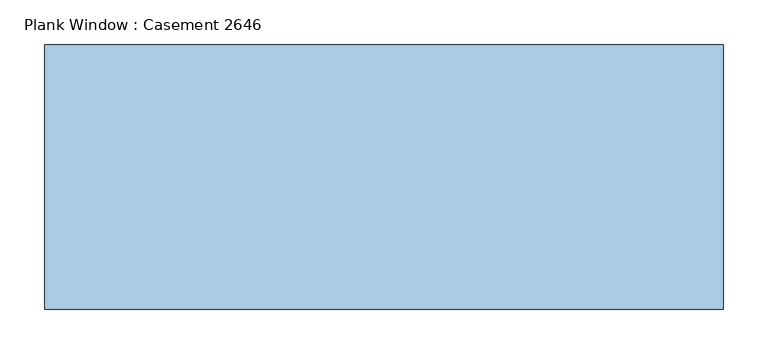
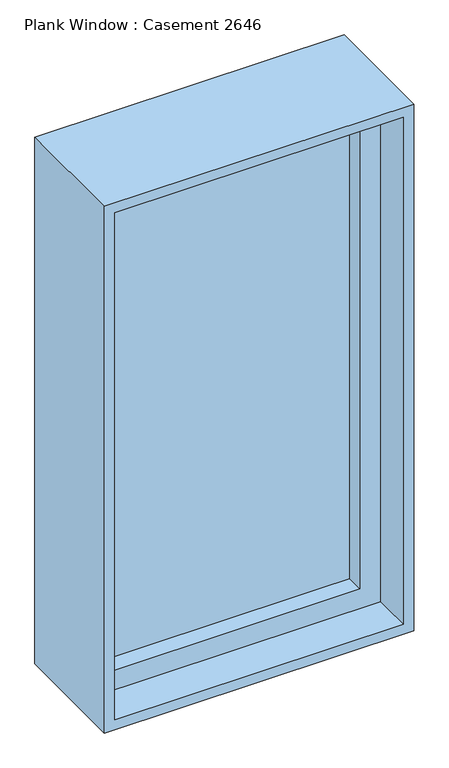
"""IFC4 building model written with IfcOpenShell, lengths in millimetres: window geometry, Plank Window : Casement 2646."""

from ifc_helpers import new_model, si_unit, frame, origin, place, context, project, spatial, polyline, outline, extrude, source, transform, mapped, element, save


def plank_window_casement_2646_fc72efb1(model_context):
    return source(origin(), model_context, "Body", "SweptSolid", [
        extrude(outline(polyline([(304.8, -6.35), (-304.8, -6.35), (-304.8, 6.35), (304.8, 6.35), (304.8, -6.35)])), frame((0.0, 0.0, 990.6), z_axis=(0.0, 0.0, 1.0), x_axis=(1.0, 0.0, 0.0)), (0.0, 0.0, 1.0), 1219.2),
        extrude(outline(polyline([(2260.6, -355.6), (939.8, -355.6), (939.8, 355.6), (2260.6, 355.6), (2260.6, -355.6)]), holes=[polyline([(2209.8, -304.8), (2209.8, 304.8), (990.6, 304.8), (990.6, -304.8), (2209.8, -304.8)])]), frame((0.0, -50.8, 0.0), z_axis=(0.0, 1.0, 0.0), x_axis=(0.0, 0.0, 1.0)), (0.0, 0.0, 1.0), 101.6),
        extrude(outline(polyline([(2286.0, -381.0), (914.4, -381.0), (914.4, 381.0), (2286.0, 381.0), (2286.0, -381.0)]), holes=[polyline([(2260.6, -355.6), (2260.6, 355.6), (939.8, 355.6), (939.8, -355.6), (2260.6, -355.6)])]), frame((0.0, -148.43125, 0.0), z_axis=(0.0, 1.0, 0.0), x_axis=(0.0, 0.0, 1.0)), (0.0, 0.0, 1.0), 296.8625),
    ])


if __name__ == "__main__":
    model = new_model("IFC4")
    model_context = context("Model", 3, world=origin())
    ifc_project = project(units=[si_unit("LENGTHUNIT", "METRE", prefix="MILLI")], contexts=[model_context])
    site = spatial("IfcSite", under=ifc_project)
    building = spatial("IfcBuilding", under=site)
    placement = place(None, origin())
    plank_window_casement_2646_shape = plank_window_casement_2646_fc72efb1(model_context)
    element("IfcWindow", 1, ObjectType="Plank Window : Casement 2646", at=placement, inside=building, context=model_context, shape_type="MappedRepresentation", body=[
        mapped(plank_window_casement_2646_shape, transform((0.0, 0.0, 0.0), x_axis=(1.0, 0.0, 0.0), y_axis=(0.0, 1.0, 0.0), z_axis=(0.0, 0.0, 1.0))),
    ])
    save(model, "model.ifc")
